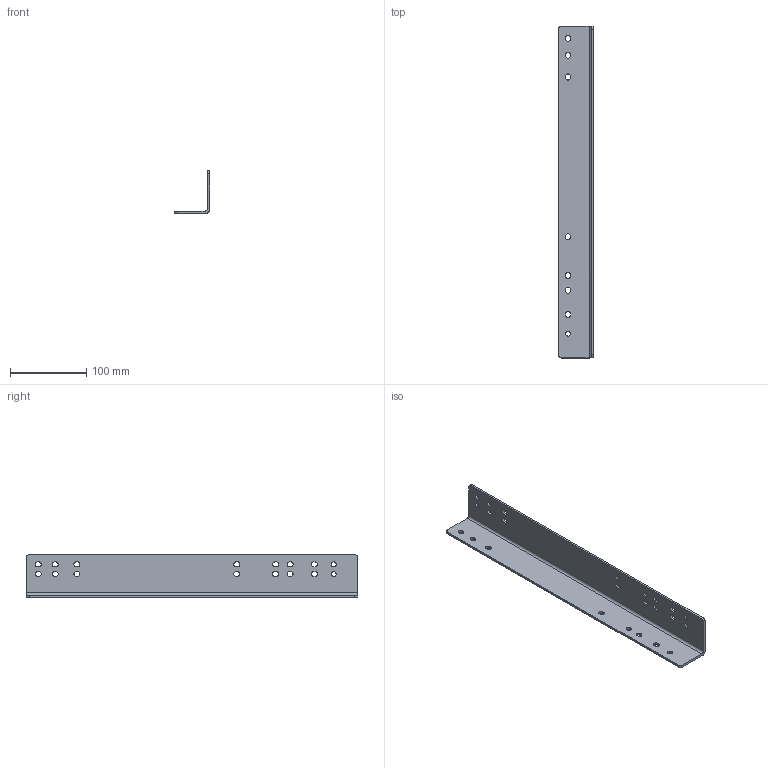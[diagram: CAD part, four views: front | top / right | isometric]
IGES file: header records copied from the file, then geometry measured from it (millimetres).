
Global section: file name: WI-AU_2257619-435_links; native system: Autodesk Inventor 2015; preprocessor: unknown; author: MelKon; date: 20171024.132626; units: millimetre
Bounding box: 46.2 x 435 x 55.9 mm (x, y, z)
Volume: 124826.9 mm3; surface area: 87550.1 mm2
Topology: 1 solids, 1 shells, 101 faces, 297 edges, 198 vertices
Faces by surface type: bspline 101
